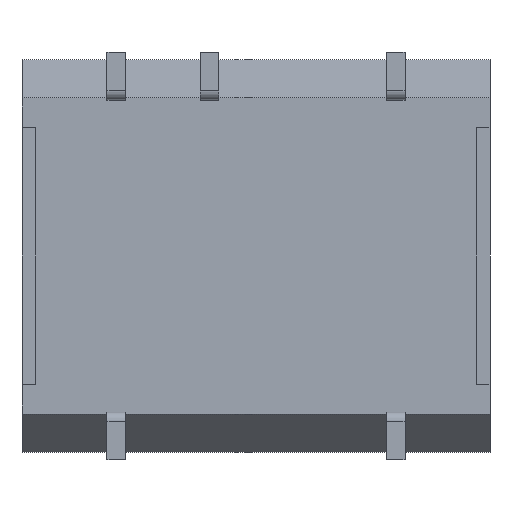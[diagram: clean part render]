
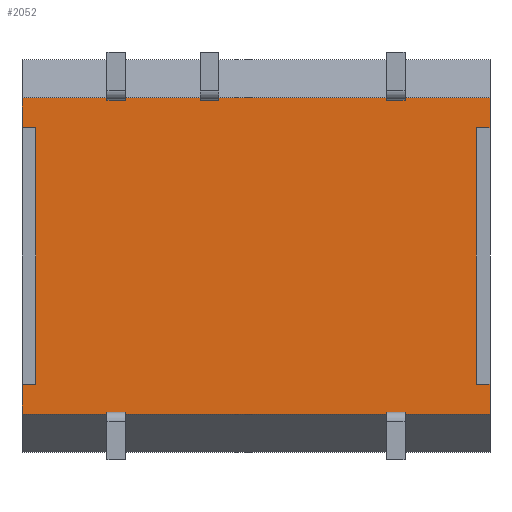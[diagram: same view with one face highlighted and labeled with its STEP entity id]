
A CAD part, front view. The second image highlights one B-rep face of the part: STEP entity #2052.
In plain terms, the highlighted planar face has unit normal (0, -1, 0).
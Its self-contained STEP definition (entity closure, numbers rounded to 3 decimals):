
#77=FACE_OUTER_BOUND('',#197,.T.);
#197=EDGE_LOOP('',(#1476,#1477,#1478,#1479,#1480,#1481,#1482,#1483,#1484,
#1485,#1486,#1487));
#330=LINE('',#2877,#602);
#334=LINE('',#2885,#606);
#337=LINE('',#2891,#609);
#349=LINE('',#2915,#621);
#371=LINE('',#2970,#643);
#374=LINE('',#2975,#646);
#376=LINE('',#2979,#648);
#378=LINE('',#2983,#650);
#380=LINE('',#2987,#652);
#381=LINE('',#2988,#653);
#382=LINE('',#2990,#654);
#383=LINE('',#2991,#655);
#602=VECTOR('',#2333,10.);
#606=VECTOR('',#2339,10.);
#609=VECTOR('',#2344,10.);
#621=VECTOR('',#2360,10.);
#643=VECTOR('',#2412,10.);
#646=VECTOR('',#2417,10.);
#648=VECTOR('',#2421,10.);
#650=VECTOR('',#2425,10.);
#652=VECTOR('',#2429,10.);
#653=VECTOR('',#2430,10.);
#654=VECTOR('',#2431,10.);
#655=VECTOR('',#2432,10.);
#870=VERTEX_POINT('',#2875);
#871=VERTEX_POINT('',#2876);
#874=VERTEX_POINT('',#2884);
#876=VERTEX_POINT('',#2890);
#886=VERTEX_POINT('',#2914);
#903=VERTEX_POINT('',#2968);
#904=VERTEX_POINT('',#2969);
#905=VERTEX_POINT('',#2974);
#906=VERTEX_POINT('',#2978);
#907=VERTEX_POINT('',#2982);
#908=VERTEX_POINT('',#2986);
#909=VERTEX_POINT('',#2989);
#1070=EDGE_CURVE('',#870,#871,#330,.T.);
#1074=EDGE_CURVE('',#874,#870,#334,.T.);
#1077=EDGE_CURVE('',#871,#876,#337,.T.);
#1089=EDGE_CURVE('',#874,#886,#349,.T.);
#1115=EDGE_CURVE('',#903,#904,#371,.T.);
#1118=EDGE_CURVE('',#904,#905,#374,.T.);
#1120=EDGE_CURVE('',#906,#903,#376,.T.);
#1122=EDGE_CURVE('',#906,#907,#378,.T.);
#1124=EDGE_CURVE('',#908,#876,#380,.T.);
#1125=EDGE_CURVE('',#908,#907,#381,.T.);
#1126=EDGE_CURVE('',#909,#905,#382,.T.);
#1127=EDGE_CURVE('',#886,#909,#383,.T.);
#1476=ORIENTED_EDGE('',*,*,#1077,.T.);
#1477=ORIENTED_EDGE('',*,*,#1124,.F.);
#1478=ORIENTED_EDGE('',*,*,#1125,.T.);
#1479=ORIENTED_EDGE('',*,*,#1122,.F.);
#1480=ORIENTED_EDGE('',*,*,#1120,.T.);
#1481=ORIENTED_EDGE('',*,*,#1115,.T.);
#1482=ORIENTED_EDGE('',*,*,#1118,.T.);
#1483=ORIENTED_EDGE('',*,*,#1126,.F.);
#1484=ORIENTED_EDGE('',*,*,#1127,.F.);
#1485=ORIENTED_EDGE('',*,*,#1089,.F.);
#1486=ORIENTED_EDGE('',*,*,#1074,.T.);
#1487=ORIENTED_EDGE('',*,*,#1070,.T.);
#1941=PLANE('',#2184);
#2052=ADVANCED_FACE('',(#77),#1941,.T.);
#2184=AXIS2_PLACEMENT_3D('',#2985,#2427,#2428);
#2333=DIRECTION('',(0.,0.,1.));
#2339=DIRECTION('',(-1.,0.,0.));
#2344=DIRECTION('',(1.,0.,0.));
#2360=DIRECTION('',(0.,0.,-1.));
#2412=DIRECTION('',(0.,0.,-1.));
#2417=DIRECTION('',(-1.,0.,0.));
#2421=DIRECTION('',(1.,0.,0.));
#2425=DIRECTION('',(0.,0.,1.));
#2427=DIRECTION('center_axis',(0.,-1.,0.));
#2428=DIRECTION('ref_axis',(0.,0.,-1.));
#2429=DIRECTION('',(0.,0.,-1.));
#2430=DIRECTION('',(-1.,0.,0.));
#2431=DIRECTION('',(0.,0.,1.));
#2432=DIRECTION('',(-1.,0.,0.));
#2875=CARTESIAN_POINT('',(6.,-1.8,-3.5));
#2876=CARTESIAN_POINT('',(6.,-1.8,3.5));
#2877=CARTESIAN_POINT('',(6.,-1.8,0.405));
#2884=CARTESIAN_POINT('',(6.375,-1.8,-3.5));
#2885=CARTESIAN_POINT('',(3.188,-1.8,-3.5));
#2890=CARTESIAN_POINT('',(6.375,-1.8,3.5));
#2891=CARTESIAN_POINT('',(3.,-1.8,3.5));
#2914=CARTESIAN_POINT('',(6.375,-1.8,-4.311));
#2915=CARTESIAN_POINT('',(6.375,-1.8,0.));
#2968=CARTESIAN_POINT('',(-6.,-1.8,3.5));
#2969=CARTESIAN_POINT('',(-6.,-1.8,-3.5));
#2970=CARTESIAN_POINT('',(-6.,-1.8,0.405));
#2974=CARTESIAN_POINT('',(-6.375,-1.8,-3.5));
#2975=CARTESIAN_POINT('',(-3.188,-1.8,-3.5));
#2978=CARTESIAN_POINT('',(-6.375,-1.8,3.5));
#2979=CARTESIAN_POINT('',(-3.,-1.8,3.5));
#2982=CARTESIAN_POINT('',(-6.375,-1.8,4.311));
#2983=CARTESIAN_POINT('',(-6.375,-1.8,-4.311));
#2985=CARTESIAN_POINT('Origin',(0.,-1.8,4.311));
#2986=CARTESIAN_POINT('',(6.375,-1.8,4.311));
#2987=CARTESIAN_POINT('',(6.375,-1.8,0.));
#2988=CARTESIAN_POINT('',(0.,-1.8,4.311));
#2989=CARTESIAN_POINT('',(-6.375,-1.8,-4.311));
#2990=CARTESIAN_POINT('',(-6.375,-1.8,-4.311));
#2991=CARTESIAN_POINT('',(0.,-1.8,-4.311));
